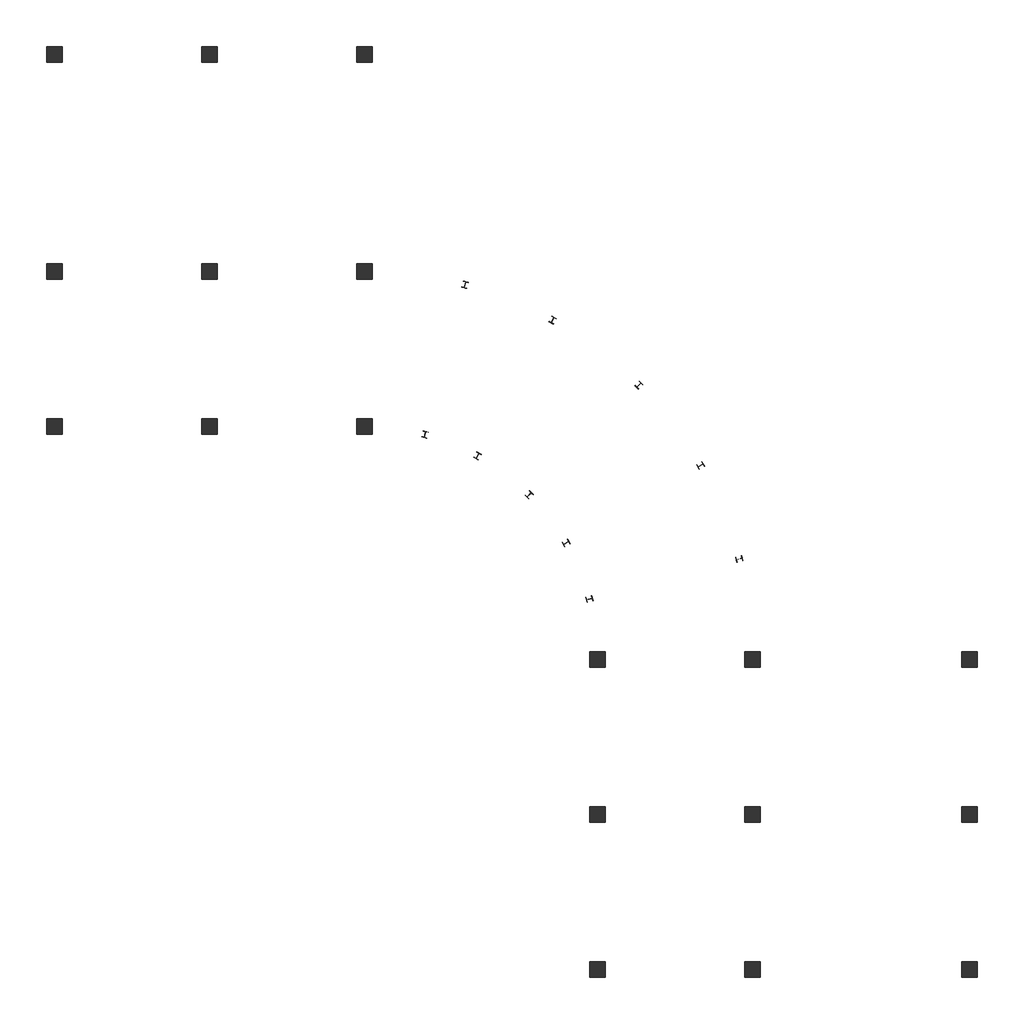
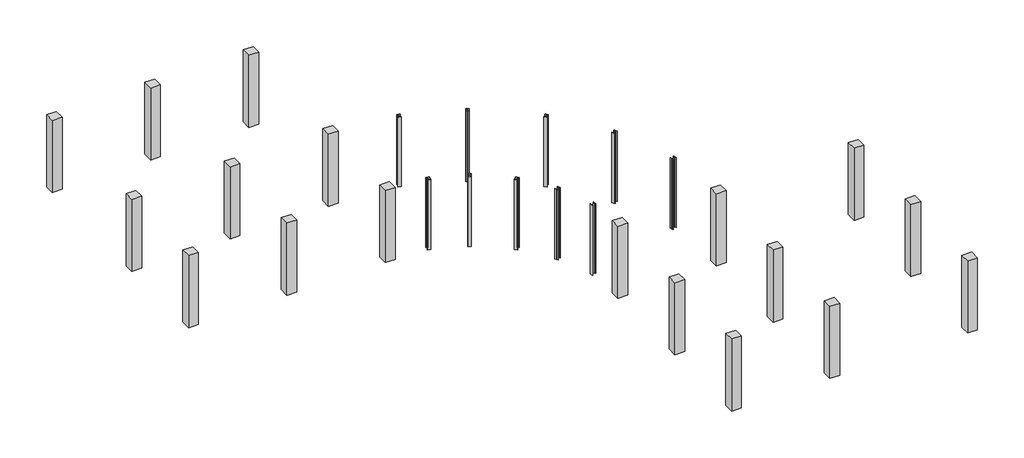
# One storey: 28 columns.
"""IFC4 building model written with IfcOpenShell, lengths in millimetres."""

from ifc_helpers import new_model, si_unit, frame, origin, place, context, project, spatial, polyline, outline, extrude, transform, mapped, element, save
from components import w_shapes_column_w10x33_8af9b308

model = new_model("IFC4")

# Units and contexts
model_context = context("Model", 3, world=origin())
ifc_project = project(units=[si_unit("LENGTHUNIT", "METRE", prefix="MILLI")], contexts=[model_context])

# Site, building, storey
site = spatial("IfcSite", under=ifc_project)
building = spatial("IfcBuilding", under=site)
storey = spatial("IfcBuildingStorey", under=building, Name="T.O.F", Elevation=-1676.4)

# Columns
placement = place(None, origin())
element("IfcColumn", 1, ObjectType="Concrete-Rectangular-Column : 24 x 24", at=placement, inside=storey, context=model_context, shape_type="SweptSolid", body=[
    extrude(outline(polyline([(-26717.2148109, -1707.750522), (-26717.2148109, -1098.150522), (-26107.6148109, -1098.150522), (-26107.6148109, -1707.750522), (-26717.2148109, -1707.750522)])), frame((0.0, 0.0, -1676.4), z_axis=(0.0, 0.0, 1.0), x_axis=(1.0, 0.0, 0.0)), (0.0, 0.0, 1.0), 4724.4),
])
element("IfcColumn", 2, ObjectType="Concrete-Rectangular-Column : 24 x 24", at=placement, inside=storey, context=model_context, shape_type="SweptSolid", body=[
    extrude(outline(polyline([(-26717.2148109, 4388.249478), (-26717.2148109, 4997.849478), (-26107.6148109, 4997.849478), (-26107.6148109, 4388.249478), (-26717.2148109, 4388.249478)])), frame((0.0, 0.0, -1676.4), z_axis=(0.0, 0.0, 1.0), x_axis=(1.0, 0.0, 0.0)), (0.0, 0.0, 1.0), 4724.4),
])
element("IfcColumn", 3, ObjectType="Concrete-Rectangular-Column : 24 x 24", at=placement, inside=storey, context=model_context, shape_type="SweptSolid", body=[
    extrude(outline(polyline([(-26717.2148109, 12922.649478), (-26717.2148109, 13532.249478), (-26107.6148109, 13532.249478), (-26107.6148109, 12922.649478), (-26717.2148109, 12922.649478)])), frame((0.0, 0.0, -1676.4), z_axis=(0.0, 0.0, 1.0), x_axis=(1.0, 0.0, 0.0)), (0.0, 0.0, 1.0), 4724.4),
])
element("IfcColumn", 4, ObjectType="Concrete-Rectangular-Column : 24 x 24", at=placement, inside=storey, context=model_context, shape_type="SweptSolid", body=[
    extrude(outline(polyline([(-32813.2148109, -1707.750522), (-32813.2148109, -1098.150522), (-32203.6148109, -1098.150522), (-32203.6148109, -1707.750522), (-32813.2148109, -1707.750522)])), frame((0.0, 0.0, -1676.4), z_axis=(0.0, 0.0, 1.0), x_axis=(1.0, 0.0, 0.0)), (0.0, 0.0, 1.0), 4724.4),
])
element("IfcColumn", 5, ObjectType="Concrete-Rectangular-Column : 24 x 24", at=placement, inside=storey, context=model_context, shape_type="SweptSolid", body=[
    extrude(outline(polyline([(-32813.2148109, 4388.249478), (-32813.2148109, 4997.849478), (-32203.6148109, 4997.849478), (-32203.6148109, 4388.249478), (-32813.2148109, 4388.249478)])), frame((0.0, 0.0, -1676.4), z_axis=(0.0, 0.0, 1.0), x_axis=(1.0, 0.0, 0.0)), (0.0, 0.0, 1.0), 4724.4),
])
element("IfcColumn", 6, ObjectType="Concrete-Rectangular-Column : 24 x 24", at=placement, inside=storey, context=model_context, shape_type="SweptSolid", body=[
    extrude(outline(polyline([(-32813.2148109, 12922.649478), (-32813.2148109, 13532.249478), (-32203.6148109, 13532.249478), (-32203.6148109, 12922.649478), (-32813.2148109, 12922.649478)])), frame((0.0, 0.0, -1676.4), z_axis=(0.0, 0.0, 1.0), x_axis=(1.0, 0.0, 0.0)), (0.0, 0.0, 1.0), 4724.4),
])
element("IfcColumn", 7, ObjectType="Concrete-Rectangular-Column : 24 x 24", at=placement, inside=storey, context=model_context, shape_type="SweptSolid", body=[
    extrude(outline(polyline([(-38909.2148109, -1707.750522), (-38909.2148109, -1098.150522), (-38299.6148109, -1098.150522), (-38299.6148109, -1707.750522), (-38909.2148109, -1707.750522)])), frame((0.0, 0.0, -1676.4), z_axis=(0.0, 0.0, 1.0), x_axis=(1.0, 0.0, 0.0)), (0.0, 0.0, 1.0), 4724.4),
])
element("IfcColumn", 8, ObjectType="Concrete-Rectangular-Column : 24 x 24", at=placement, inside=storey, context=model_context, shape_type="SweptSolid", body=[
    extrude(outline(polyline([(-38909.2148109, 4388.249478), (-38909.2148109, 4997.849478), (-38299.6148109, 4997.849478), (-38299.6148109, 4388.249478), (-38909.2148109, 4388.249478)])), frame((0.0, 0.0, -1676.4), z_axis=(0.0, 0.0, 1.0), x_axis=(1.0, 0.0, 0.0)), (0.0, 0.0, 1.0), 4724.4),
])
element("IfcColumn", 9, ObjectType="Concrete-Rectangular-Column : 24 x 24", at=placement, inside=storey, context=model_context, shape_type="SweptSolid", body=[
    extrude(outline(polyline([(-38909.2148109, 12922.649478), (-38909.2148109, 13532.249478), (-38299.6148109, 13532.249478), (-38299.6148109, 12922.649478), (-38909.2148109, 12922.649478)])), frame((0.0, 0.0, -1676.4), z_axis=(0.0, 0.0, 1.0), x_axis=(1.0, 0.0, 0.0)), (0.0, 0.0, 1.0), 4724.4),
])
element("IfcColumn", 10, ObjectType="Concrete-Rectangular-Column : 24 x 24", at=placement, inside=storey, context=model_context, shape_type="SweptSolid", body=[
    extrude(outline(polyline([(-17573.2148109, -10851.750522), (-17573.2148109, -10242.150522), (-16963.6148109, -10242.150522), (-16963.6148109, -10851.750522), (-17573.2148109, -10851.750522)])), frame((0.0, 0.0, -1676.4), z_axis=(0.0, 0.0, 1.0), x_axis=(1.0, 0.0, 0.0)), (0.0, 0.0, 1.0), 4724.4),
])
element("IfcColumn", 11, ObjectType="Concrete-Rectangular-Column : 24 x 24", at=placement, inside=storey, context=model_context, shape_type="SweptSolid", body=[
    extrude(outline(polyline([(-11477.2148109, -10851.750522), (-11477.2148109, -10242.150522), (-10867.6148109, -10242.150522), (-10867.6148109, -10851.750522), (-11477.2148109, -10851.750522)])), frame((0.0, 0.0, -1676.4), z_axis=(0.0, 0.0, 1.0), x_axis=(1.0, 0.0, 0.0)), (0.0, 0.0, 1.0), 4724.4),
])
element("IfcColumn", 12, ObjectType="Concrete-Rectangular-Column : 24 x 24", at=placement, inside=storey, context=model_context, shape_type="SweptSolid", body=[
    extrude(outline(polyline([(-2942.8148109, -10851.750522), (-2942.8148109, -10242.150522), (-2333.2148109, -10242.150522), (-2333.2148109, -10851.750522), (-2942.8148109, -10851.750522)])), frame((0.0, 0.0, -1676.4), z_axis=(0.0, 0.0, 1.0), x_axis=(1.0, 0.0, 0.0)), (0.0, 0.0, 1.0), 4724.4),
])
element("IfcColumn", 13, ObjectType="Concrete-Rectangular-Column : 24 x 24", at=placement, inside=storey, context=model_context, shape_type="SweptSolid", body=[
    extrude(outline(polyline([(-17573.2148109, -16947.750522), (-17573.2148109, -16338.150522), (-16963.6148109, -16338.150522), (-16963.6148109, -16947.750522), (-17573.2148109, -16947.750522)])), frame((0.0, 0.0, -1676.4), z_axis=(0.0, 0.0, 1.0), x_axis=(1.0, 0.0, 0.0)), (0.0, 0.0, 1.0), 4724.4),
])
element("IfcColumn", 14, ObjectType="Concrete-Rectangular-Column : 24 x 24", at=placement, inside=storey, context=model_context, shape_type="SweptSolid", body=[
    extrude(outline(polyline([(-11477.2148109, -16947.750522), (-11477.2148109, -16338.150522), (-10867.6148109, -16338.150522), (-10867.6148109, -16947.750522), (-11477.2148109, -16947.750522)])), frame((0.0, 0.0, -1676.4), z_axis=(0.0, 0.0, 1.0), x_axis=(1.0, 0.0, 0.0)), (0.0, 0.0, 1.0), 4724.4),
])
element("IfcColumn", 15, ObjectType="Concrete-Rectangular-Column : 24 x 24", at=placement, inside=storey, context=model_context, shape_type="SweptSolid", body=[
    extrude(outline(polyline([(-2942.8148109, -16947.750522), (-2942.8148109, -16338.150522), (-2333.2148109, -16338.150522), (-2333.2148109, -16947.750522), (-2942.8148109, -16947.750522)])), frame((0.0, 0.0, -1676.4), z_axis=(0.0, 0.0, 1.0), x_axis=(1.0, 0.0, 0.0)), (0.0, 0.0, 1.0), 4724.4),
])
element("IfcColumn", 16, ObjectType="Concrete-Rectangular-Column : 24 x 24", at=placement, inside=storey, context=model_context, shape_type="SweptSolid", body=[
    extrude(outline(polyline([(-17573.2148109, -23043.750522), (-17573.2148109, -22434.150522), (-16963.6148109, -22434.150522), (-16963.6148109, -23043.750522), (-17573.2148109, -23043.750522)])), frame((0.0, 0.0, -1676.4), z_axis=(0.0, 0.0, 1.0), x_axis=(1.0, 0.0, 0.0)), (0.0, 0.0, 1.0), 4724.4),
])
element("IfcColumn", 17, ObjectType="Concrete-Rectangular-Column : 24 x 24", at=placement, inside=storey, context=model_context, shape_type="SweptSolid", body=[
    extrude(outline(polyline([(-11477.2148109, -23043.750522), (-11477.2148109, -22434.150522), (-10867.6148109, -22434.150522), (-10867.6148109, -23043.750522), (-11477.2148109, -23043.750522)])), frame((0.0, 0.0, -1676.4), z_axis=(0.0, 0.0, 1.0), x_axis=(1.0, 0.0, 0.0)), (0.0, 0.0, 1.0), 4724.4),
])
element("IfcColumn", 18, ObjectType="Concrete-Rectangular-Column : 24 x 24", at=placement, inside=storey, context=model_context, shape_type="SweptSolid", body=[
    extrude(outline(polyline([(-2942.8148109, -23043.750522), (-2942.8148109, -22434.150522), (-2333.2148109, -22434.150522), (-2333.2148109, -23043.750522), (-2942.8148109, -23043.750522)])), frame((0.0, 0.0, -1676.4), z_axis=(0.0, 0.0, 1.0), x_axis=(1.0, 0.0, 0.0)), (0.0, 0.0, 1.0), 4724.4),
])
w_shapes_column_w10x33_shape = w_shapes_column_w10x33_8af9b308(model_context)
element("IfcColumn", 19, ObjectType="W Shapes-Column : W10X33", at=placement, inside=storey, context=model_context, shape_type="MappedRepresentation", body=[
    mapped(w_shapes_column_w10x33_shape, transform((-17579.9890553, -8180.3091736, 0.0), x_axis=(-0.258819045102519, 0.965925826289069, 0.0), y_axis=(-0.965925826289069, -0.258819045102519, 0.0), z_axis=(0.0, 0.0, 1.0))),
])
element("IfcColumn", 20, ObjectType="W Shapes-Column : W10X33", at=placement, inside=storey, context=model_context, shape_type="MappedRepresentation", body=[
    mapped(w_shapes_column_w10x33_shape, transform((-11691.7052182, -6602.5482746, 0.0), x_axis=(-0.258819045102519, 0.965925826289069, 0.0), y_axis=(-0.965925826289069, -0.258819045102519, 0.0), z_axis=(0.0, 0.0, 1.0))),
])
element("IfcColumn", 21, ObjectType="W Shapes-Column : W10X33", at=placement, inside=storey, context=model_context, shape_type="MappedRepresentation", body=[
    mapped(w_shapes_column_w10x33_shape, transform((-18493.4785187, -5974.950522, 0.0), x_axis=(-0.4999999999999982, 0.8660254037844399, 0.0), y_axis=(-0.8660254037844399, -0.4999999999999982, 0.0), z_axis=(0.0, 0.0, 1.0))),
])
element("IfcColumn", 22, ObjectType="W Shapes-Column : W10X33", at=placement, inside=storey, context=model_context, shape_type="MappedRepresentation", body=[
    mapped(w_shapes_column_w10x33_shape, transform((-13214.1876572, -2926.950522, 0.0), x_axis=(-0.4999999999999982, 0.8660254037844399, 0.0), y_axis=(-0.8660254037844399, -0.4999999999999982, 0.0), z_axis=(0.0, 0.0, 1.0))),
])
element("IfcColumn", 23, ObjectType="W Shapes-Column : W10X33", at=placement, inside=storey, context=model_context, shape_type="MappedRepresentation", body=[
    mapped(w_shapes_column_w10x33_shape, transform((-19946.6304037, -4081.1661148, 0.0), x_axis=(0.707106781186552, -0.707106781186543, 0.0), y_axis=(0.707106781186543, 0.707106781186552, 0.0), z_axis=(0.0, 0.0, 1.0))),
])
element("IfcColumn", 24, ObjectType="W Shapes-Column : W10X33", at=placement, inside=storey, context=model_context, shape_type="MappedRepresentation", body=[
    mapped(w_shapes_column_w10x33_shape, transform((-15636.1074656, 229.3568233, 0.0), x_axis=(0.7071067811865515, -0.7071067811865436, 0.0), y_axis=(0.7071067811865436, 0.7071067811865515, 0.0), z_axis=(0.0, 0.0, 1.0))),
])
element("IfcColumn", 25, ObjectType="W Shapes-Column : W10X33", at=placement, inside=storey, context=model_context, shape_type="MappedRepresentation", body=[
    mapped(w_shapes_column_w10x33_shape, transform((-21979.3156433, -2549.4279199, 0.0), x_axis=(0.8746197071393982, -0.4848096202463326, 0.0), y_axis=(0.4848096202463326, 0.8746197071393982, 0.0), z_axis=(0.0, 0.0, 1.0))),
])
element("IfcColumn", 26, ObjectType="W Shapes-Column : W10X33", at=placement, inside=storey, context=model_context, shape_type="MappedRepresentation", body=[
    mapped(w_shapes_column_w10x33_shape, transform((-19023.9161983, 2782.2538148, 0.0), x_axis=(0.8746197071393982, -0.4848096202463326, 0.0), y_axis=(0.4848096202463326, 0.8746197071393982, 0.0), z_axis=(0.0, 0.0, 1.0))),
])
element("IfcColumn", 27, ObjectType="W Shapes-Column : W10X33", at=placement, inside=storey, context=model_context, shape_type="MappedRepresentation", body=[
    mapped(w_shapes_column_w10x33_shape, transform((-24045.7734625, -1714.5247664, 0.0), x_axis=(0.9659258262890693, -0.25881904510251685, 0.0), y_axis=(0.25881904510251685, 0.9659258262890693, 0.0), z_axis=(0.0, 0.0, 1.0))),
])
element("IfcColumn", 28, ObjectType="W Shapes-Column : W10X33", at=placement, inside=storey, context=model_context, shape_type="MappedRepresentation", body=[
    mapped(w_shapes_column_w10x33_shape, transform((-22468.0125635, 4173.7590707, 0.0), x_axis=(0.9659258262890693, -0.25881904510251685, 0.0), y_axis=(0.25881904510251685, 0.9659258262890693, 0.0), z_axis=(0.0, 0.0, 1.0))),
])

save(model, "model.ifc")
